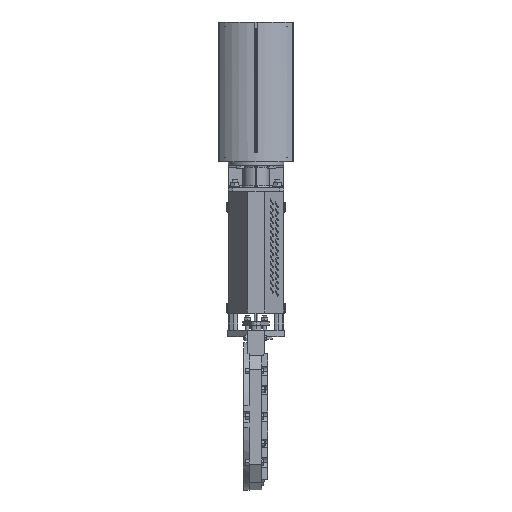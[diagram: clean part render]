
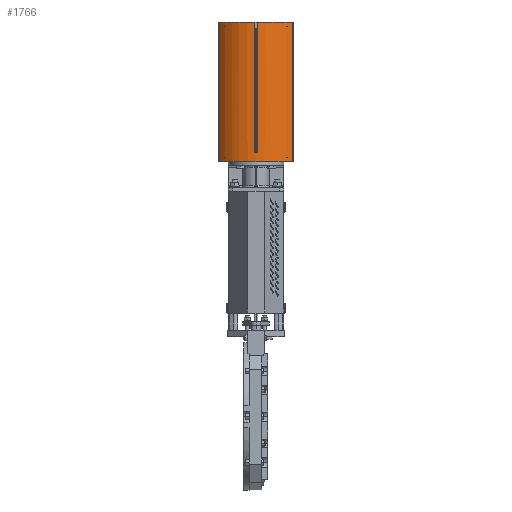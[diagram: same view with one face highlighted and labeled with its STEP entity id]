
A CAD part, front view. The second image highlights one B-rep face of the part: STEP entity #1766.
In plain terms, the highlighted cylindrical face has radius 153.5 mm (diameter 307 mm), a partial arc.
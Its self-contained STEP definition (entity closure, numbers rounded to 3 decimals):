
#1766=ADVANCED_FACE('',(#5695),#5696,.T.);
#5695=FACE_OUTER_BOUND('',#10495,.T.);
#5696=CYLINDRICAL_SURFACE('',#10496,153.5);
#10495=EDGE_LOOP('',(#24577,#24578,#24579,#24580,#24581,#24582,#24583,#24584,#24585,#24586,#24587,#24588));
#10496=AXIS2_PLACEMENT_3D('',#24589,#24590,#24591);
#24577=ORIENTED_EDGE('',*,*,#33925,.T.);
#24578=ORIENTED_EDGE('',*,*,#33926,.T.);
#24579=ORIENTED_EDGE('',*,*,#33927,.F.);
#24580=ORIENTED_EDGE('',*,*,#33845,.T.);
#24581=ORIENTED_EDGE('',*,*,#33928,.T.);
#24582=ORIENTED_EDGE('',*,*,#33929,.T.);
#24583=ORIENTED_EDGE('',*,*,#33930,.T.);
#24584=ORIENTED_EDGE('',*,*,#33931,.T.);
#24585=ORIENTED_EDGE('',*,*,#33932,.F.);
#24586=ORIENTED_EDGE('',*,*,#31408,.T.);
#24587=ORIENTED_EDGE('',*,*,#33933,.T.);
#24588=ORIENTED_EDGE('',*,*,#33934,.T.);
#24589=CARTESIAN_POINT('',(0.,39.199,1202.));
#24590=DIRECTION('',(0.,0.,-1.));
#24591=DIRECTION('',(-0.764,-0.645,0.));
#31408=EDGE_CURVE('',#39369,#39370,#39371,.T.);
#33845=EDGE_CURVE('',#43099,#43111,#43113,.T.);
#33925=EDGE_CURVE('',#43228,#43229,#43230,.T.);
#33926=EDGE_CURVE('',#43229,#43231,#43232,.T.);
#33927=EDGE_CURVE('',#43099,#43231,#43233,.T.);
#33928=EDGE_CURVE('',#43111,#43234,#43235,.T.);
#33929=EDGE_CURVE('',#43234,#43236,#43237,.T.);
#33930=EDGE_CURVE('',#43236,#43238,#43239,.T.);
#33931=EDGE_CURVE('',#43238,#43240,#43241,.T.);
#33932=EDGE_CURVE('',#39369,#43240,#43242,.T.);
#33933=EDGE_CURVE('',#39370,#43243,#43244,.T.);
#33934=EDGE_CURVE('',#43243,#43228,#43245,.T.);
#39369=VERTEX_POINT('',#50712);
#39370=VERTEX_POINT('',#50713);
#39371=CIRCLE('',#50714,153.5);
#43099=VERTEX_POINT('',#61387);
#43111=VERTEX_POINT('',#61405);
#43113=CIRCLE('',#61408,153.5);
#43228=VERTEX_POINT('',#61667);
#43229=VERTEX_POINT('',#61668);
#43230=LINE('',#61669,#61670);
#43231=VERTEX_POINT('',#61671);
#43232=CIRCLE('',#61672,153.5);
#43233=LINE('',#61673,#61674);
#43234=VERTEX_POINT('',#61675);
#43235=LINE('',#61676,#61677);
#43236=VERTEX_POINT('',#61678);
#43237=CIRCLE('',#61679,153.5);
#43238=VERTEX_POINT('',#61680);
#43239=LINE('',#61681,#61682);
#43240=VERTEX_POINT('',#61683);
#43241=CIRCLE('',#61684,153.5);
#43242=LINE('',#61685,#61686);
#43243=VERTEX_POINT('',#61687);
#43244=LINE('',#61688,#61689);
#43245=CIRCLE('',#61690,153.5);
#50712=CARTESIAN_POINT('',(-117.292,-59.82,809.));
#50713=CARTESIAN_POINT('',(117.292,-59.82,809.));
#50714=AXIS2_PLACEMENT_3D('',#68706,#68707,#68708);
#61387=CARTESIAN_POINT('',(2.725,-114.277,837.));
#61405=CARTESIAN_POINT('',(-2.725,-114.277,837.));
#61408=AXIS2_PLACEMENT_3D('',#72016,#72017,#72018);
#61667=CARTESIAN_POINT('',(3.5,-114.261,1252.));
#61668=CARTESIAN_POINT('',(3.5,-114.261,1232.));
#61669=CARTESIAN_POINT('',(3.5,-114.261,1252.));
#61670=VECTOR('',#72148,1000.);
#61671=CARTESIAN_POINT('',(2.725,-114.277,1232.));
#61672=AXIS2_PLACEMENT_3D('',#72149,#72150,#72151);
#61673=CARTESIAN_POINT('',(2.725,-114.277,837.));
#61674=VECTOR('',#72152,10.);
#61675=CARTESIAN_POINT('',(-2.725,-114.277,1232.));
#61676=CARTESIAN_POINT('',(-2.725,-114.277,837.));
#61677=VECTOR('',#72153,10.);
#61678=CARTESIAN_POINT('',(-3.5,-114.261,1232.));
#61679=AXIS2_PLACEMENT_3D('',#72154,#72155,#72156);
#61680=CARTESIAN_POINT('',(-3.5,-114.261,1252.));
#61681=CARTESIAN_POINT('',(-3.5,-114.261,1232.));
#61682=VECTOR('',#72157,1000.);
#61683=CARTESIAN_POINT('',(-117.292,-59.82,1252.));
#61684=AXIS2_PLACEMENT_3D('',#72158,#72159,#72160);
#61685=CARTESIAN_POINT('',(-117.292,-59.82,809.));
#61686=VECTOR('',#72161,1000.);
#61687=CARTESIAN_POINT('',(117.292,-59.82,1252.));
#61688=CARTESIAN_POINT('',(117.292,-59.82,809.));
#61689=VECTOR('',#72162,1000.);
#61690=AXIS2_PLACEMENT_3D('',#72163,#72164,#72165);
#68706=CARTESIAN_POINT('',(0.,39.199,809.));
#68707=DIRECTION('',(0.,0.,1.));
#68708=DIRECTION('',(-0.764,-0.645,0.));
#72016=CARTESIAN_POINT('',(0.,39.199,837.));
#72017=DIRECTION('',(0.,0.,-1.));
#72018=DIRECTION('',(-0.764,-0.645,0.));
#72148=DIRECTION('',(0.,0.,-1.));
#72149=CARTESIAN_POINT('',(0.,39.199,1232.));
#72150=DIRECTION('',(0.,0.,-1.));
#72151=DIRECTION('',(0.,1.,0.));
#72152=DIRECTION('',(0.,0.,1.));
#72153=DIRECTION('',(0.,0.,1.));
#72154=CARTESIAN_POINT('',(0.,39.199,1232.));
#72155=DIRECTION('',(0.,0.,-1.));
#72156=DIRECTION('',(0.,1.,0.));
#72157=DIRECTION('',(0.,0.,1.));
#72158=CARTESIAN_POINT('',(0.,39.199,1252.));
#72159=DIRECTION('',(0.,0.,-1.));
#72160=DIRECTION('',(-0.764,-0.645,0.));
#72161=DIRECTION('',(0.,0.,1.));
#72162=DIRECTION('',(0.,0.,1.));
#72163=CARTESIAN_POINT('',(0.,39.199,1252.));
#72164=DIRECTION('',(0.,0.,-1.));
#72165=DIRECTION('',(-0.764,-0.645,0.));
